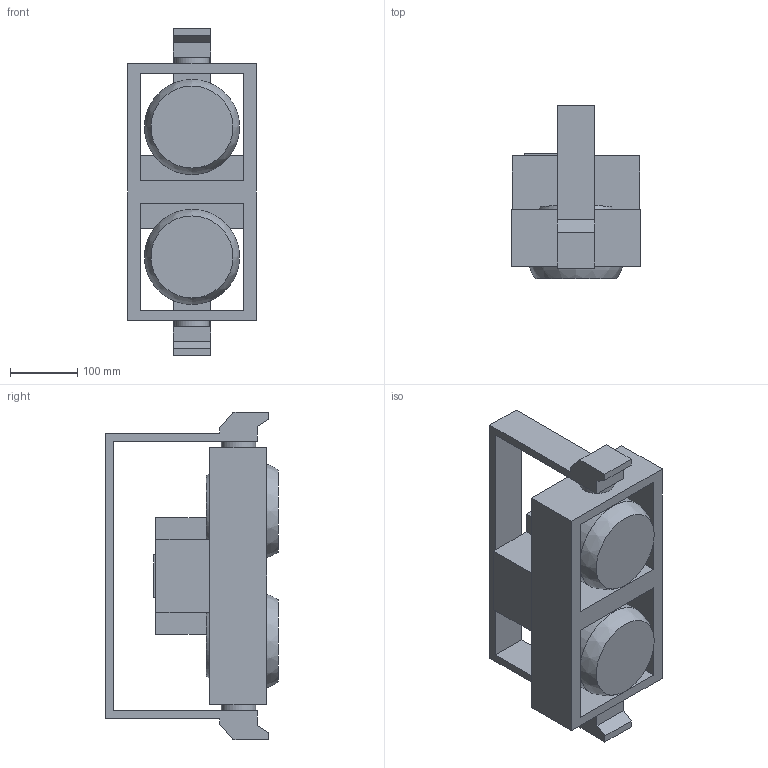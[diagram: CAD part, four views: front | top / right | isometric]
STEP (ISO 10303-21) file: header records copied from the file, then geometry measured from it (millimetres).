
FILE_DESCRIPTION(/* description */ (''),/* implementation_level */ '2;1');
FILE_NAME(/* name */ 'Strike Array 2C_90.stp',/* time_stamp */ '2024-02-20T15:17:10-05:00',/* author */ ('chenry'),/* organization */ (''),/* preprocessor_version */ 'ST-DEVELOPER v20',/* originating_system */ 'Autodesk Inventor 2024',/* authorisation */ '');
FILE_SCHEMA (('AUTOMOTIVE_DESIGN { 1 0 10303 214 3 1 1 }'));
Length unit declared in the file: millimetre
Products named in the file (3): Strike Array 2C_0; body; Arm
Assembly tree (2 placements, depth 2):
  Strike Array 2C_0
    body
    Arm
Bounding box: 190 x 256.15 x 485.98 mm (x, y, z)
Volume: 7695395.7 mm3; surface area: 598769.6 mm2
Topology: 2 solids, 2 shells, 72 faces, 184 edges, 120 vertices
Faces by surface type: plane 62, cylinder 6, bspline 4
Full cylindrical faces by diameter (mm): 51.026 x4, 140.958 x2
Entity records: 2381 total; most frequent: CARTESIAN_POINT 505, ORIENTED_EDGE 368, DIRECTION 350, EDGE_CURVE 184, LINE 156, VECTOR 156, VERTEX_POINT 120, AXIS2_PLACEMENT_3D 97
